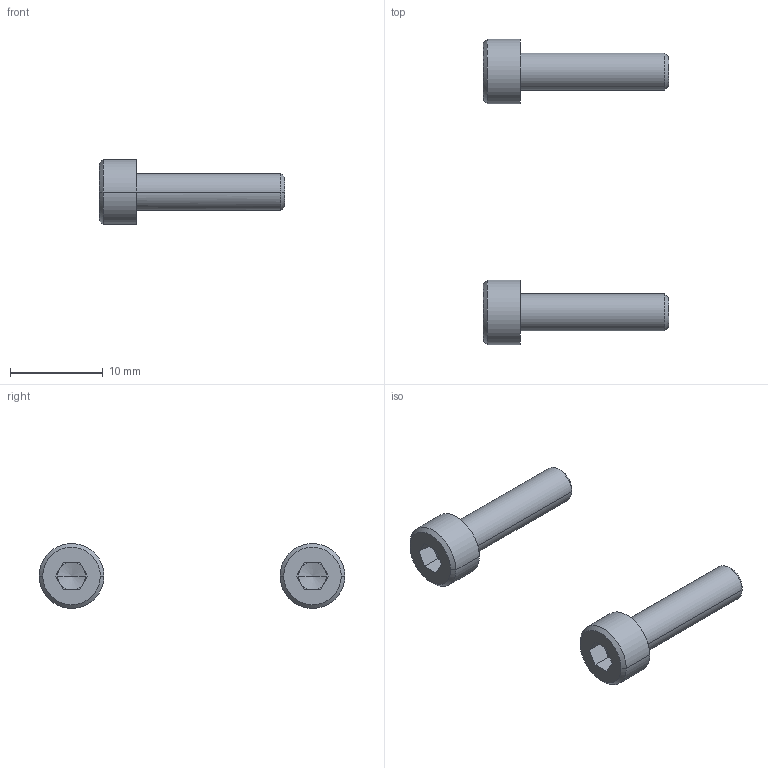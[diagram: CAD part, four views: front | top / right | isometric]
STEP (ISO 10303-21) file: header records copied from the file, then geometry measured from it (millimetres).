
FILE_DESCRIPTION(/* description */ (''),/* implementation_level */ '2;1');
FILE_NAME(/* name */ '6.y-drive#6.4#CB4-16',/* time_stamp */ '2014-12-01T20:14:24+01:00',/* author */ (''),/* organization */ (''),/* preprocessor_version */ 'ST-DEVELOPER v14',/* originating_system */ '',/* authorisation */ '');
FILE_SCHEMA (('AUTOMOTIVE_DESIGN'));
Length unit declared in the file: millimetre
Products named in the file (2): Document; screw DIN912-like, M4x16
Assembly tree (2 placements, depth 2):
  Document
    screw DIN912-like, M4x16  x2
Bounding box: 20 x 33 x 6.99 mm (x, y, z)
Volume: 673.6 mm3; surface area: 757.1 mm2
Topology: 2 solids, 2 shells, 50 faces, 112 edges, 66 vertices
Faces by surface type: plane 30, bspline 20
Entity records: 1413 total; most frequent: CARTESIAN_POINT 633, B_SPLINE_CURVE_WITH_KNOTS 126, ORIENTED_EDGE 108, PCURVE 108, DEFINITIONAL_REPRESENTATION 108, SURFACE_CURVE 54, EDGE_CURVE 54, VERTEX_POINT 33
